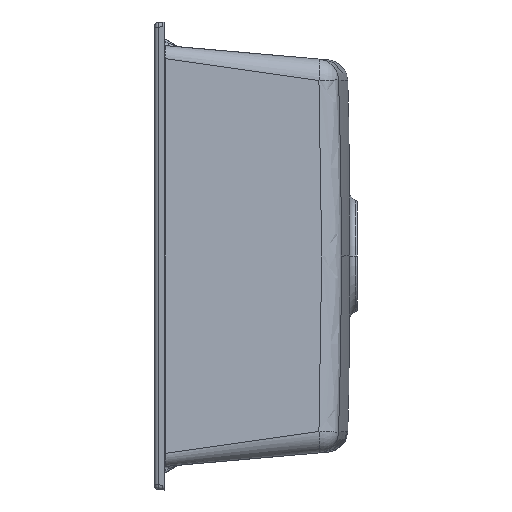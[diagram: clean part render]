
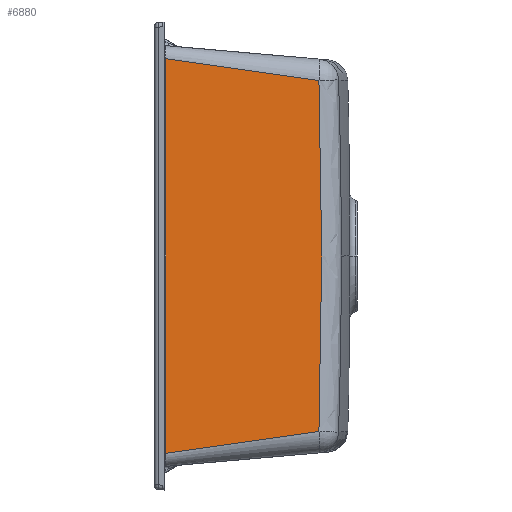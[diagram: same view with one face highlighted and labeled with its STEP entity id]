
A CAD part, left-side view. The second image highlights one B-rep face of the part: STEP entity #6880.
In plain terms, the highlighted planar face has unit normal (-0.996, -0.087, 0).
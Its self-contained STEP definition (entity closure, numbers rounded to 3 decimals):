
#603 = DIRECTION ( 'NONE',  ( 0., 0., -1. ) ) ;
#1478 = B_SPLINE_CURVE_WITH_KNOTS ( 'NONE', 3,
 ( #19967, #6420, #8427, #21890, #10384, #23858 ),
 .UNSPECIFIED., .F., .F.,
 ( 4, 2, 4 ),
 ( 0., 0.5, 1. ),
 .UNSPECIFIED. ) ;
#2148 = EDGE_LOOP ( 'NONE', ( #9537, #4282, #9775, #15873 ) ) ;
#2861 = CARTESIAN_POINT ( 'NONE',  ( -467.711, -110.635, -192.304 ) ) ;
#3361 = EDGE_CURVE ( 'NONE', #22601, #5765, #11806, .T. ) ;
#4282 = ORIENTED_EDGE ( 'NONE', *, *, #4872, .T. ) ;
#4354 = EDGE_CURVE ( 'NONE', #13585, #22601, #1478, .T. ) ;
#4855 = CARTESIAN_POINT ( 'NONE',  ( -477.238, -1.739, 210.848 ) ) ;
#4872 = EDGE_CURVE ( 'NONE', #11899, #5765, #21903, .T. ) ;
#5016 = CARTESIAN_POINT ( 'NONE',  ( -472.476, -56.175, 201.438 ) ) ;
#5031 = CARTESIAN_POINT ( 'NONE',  ( -462.914, -165.472, -187.506 ) ) ;
#5401 = PLANE ( 'NONE',  #16475 ) ;
#5765 = VERTEX_POINT ( 'NONE', #25143 ) ;
#6420 = CARTESIAN_POINT ( 'NONE',  ( -462.737, -167.492, 125.009 ) ) ;
#6880 = ADVANCED_FACE ( 'NONE', ( #16701 ), #5401, .T. ) ;
#7396 = DIRECTION ( 'NONE',  ( 0.087, -0.996, 0. ) ) ;
#8427 = CARTESIAN_POINT ( 'NONE',  ( -462.651, -168.468, 62.505 ) ) ;
#8861 = CARTESIAN_POINT ( 'NONE',  ( -477.238, -1.739, -210.848 ) ) ;
#9537 = ORIENTED_EDGE ( 'NONE', *, *, #11174, .F. ) ;
#9775 = ORIENTED_EDGE ( 'NONE', *, *, #3361, .F. ) ;
#10384 = CARTESIAN_POINT ( 'NONE',  ( -462.737, -167.492, -125.009 ) ) ;
#10771 = CARTESIAN_POINT ( 'NONE',  ( -462.914, -165.472, 187.506 ) ) ;
#11174 = EDGE_CURVE ( 'NONE', #11899, #13585, #19365, .T. ) ;
#11806 = B_SPLINE_CURVE_WITH_KNOTS ( 'NONE', 3,
 ( #14585, #2861, #20393, #8861 ),
 .UNSPECIFIED., .F., .F.,
 ( 4, 4 ),
 ( -0.047, 0.119 ),
 .UNSPECIFIED. ) ;
#11899 = VERTEX_POINT ( 'NONE', #16799 ) ;
#12287 = VECTOR ( 'NONE', #603, 1000. ) ;
#12450 = CARTESIAN_POINT ( 'NONE',  ( -477.238, -1.739, -211.321 ) ) ;
#13074 = CARTESIAN_POINT ( 'NONE',  ( -462.914, -165.472, 187.506 ) ) ;
#13585 = VERTEX_POINT ( 'NONE', #10771 ) ;
#14585 = CARTESIAN_POINT ( 'NONE',  ( -462.914, -165.472, -187.506 ) ) ;
#15873 = ORIENTED_EDGE ( 'NONE', *, *, #4354, .F. ) ;
#16475 = AXIS2_PLACEMENT_3D ( 'NONE', #22799, #18979, #7396 ) ;
#16701 = FACE_OUTER_BOUND ( 'NONE', #2148, .T. ) ;
#16799 = CARTESIAN_POINT ( 'NONE',  ( -477.238, -1.739, 210.848 ) ) ;
#18979 = DIRECTION ( 'NONE',  ( -0.996, -0.087, 0. ) ) ;
#19365 = B_SPLINE_CURVE_WITH_KNOTS ( 'NONE', 3,
 ( #4855, #5016, #24604, #13074 ),
 .UNSPECIFIED., .F., .F.,
 ( 4, 4 ),
 ( 0.002, 0.167 ),
 .UNSPECIFIED. ) ;
#19967 = CARTESIAN_POINT ( 'NONE',  ( -462.914, -165.472, 187.506 ) ) ;
#20393 = CARTESIAN_POINT ( 'NONE',  ( -472.476, -56.175, -201.438 ) ) ;
#21890 = CARTESIAN_POINT ( 'NONE',  ( -462.651, -168.468, -62.505 ) ) ;
#21903 = LINE ( 'NONE', #12450, #12287 ) ;
#22601 = VERTEX_POINT ( 'NONE', #5031 ) ;
#22799 = CARTESIAN_POINT ( 'NONE',  ( -477.33, -0.697, -216.865 ) ) ;
#23858 = CARTESIAN_POINT ( 'NONE',  ( -462.914, -165.472, -187.506 ) ) ;
#24604 = CARTESIAN_POINT ( 'NONE',  ( -467.711, -110.635, 192.304 ) ) ;
#25143 = CARTESIAN_POINT ( 'NONE',  ( -477.238, -1.739, -210.848 ) ) ;
